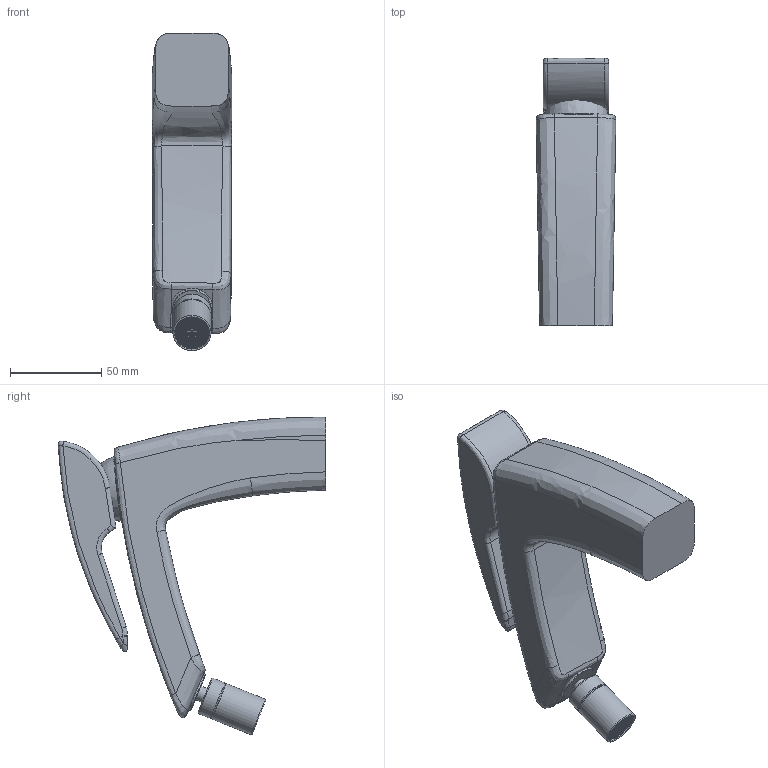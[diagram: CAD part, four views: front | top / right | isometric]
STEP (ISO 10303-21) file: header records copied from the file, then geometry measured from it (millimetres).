
FILE_DESCRIPTION(('STEP AP242'), '1');
FILE_NAME('SRCR211KM', '', ('UNSPECIFIED'), ('UNSPECIFIED'), 'ASCON STEP Converter 1.6', 'ASCON Math Kernel', '');
FILE_SCHEMA(('AP242_MANAGED_MODEL_BASED_3D_ENGINEERING_MIM_LF { 1 0 10303 442 1 1 4 }'));
Length unit declared in the file: millimetre
Products named in the file (1): SRCR211KM
Bounding box: 43.81 x 146.94 x 174.44 mm (x, y, z)
Volume: 385800.3 mm3; surface area: 56994.9 mm2
Topology: 3 solids, 3 shells, 1028 faces, 2073 edges, 1364 vertices
Faces by surface type: cylinder 635, plane 329, bspline 59, torus 4, sphere 1
Full cylindrical faces by diameter (mm): 0.6 x620, 8 x1, 19 x2, 21 x2
Entity records: 44838 total; most frequent: CARTESIAN_POINT 15482, DIRECTION 4462, ORIENTED_EDGE 2886, EDGE_LOOP 2591, AXIS2_PLACEMENT_3D 2222, EDGE_CURVE 1443, VERTEX_POINT 1364, FACE_BOUND 1331
